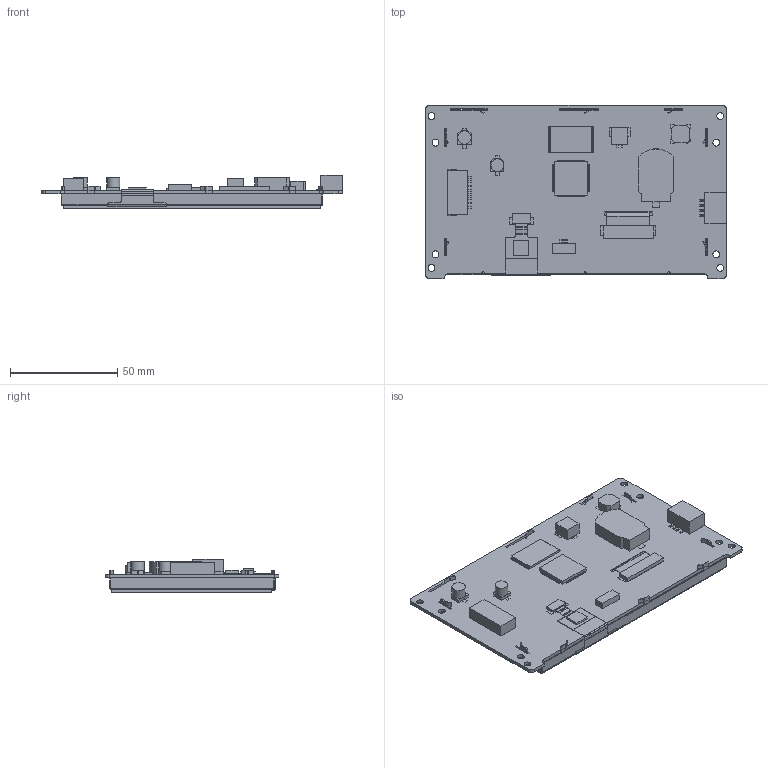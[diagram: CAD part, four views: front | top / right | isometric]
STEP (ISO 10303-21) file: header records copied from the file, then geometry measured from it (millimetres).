
FILE_DESCRIPTION(/* description */ (''),/* implementation_level */ '2;1');
FILE_NAME(/* name */ '3D_SDWa050T67C.stp',/* time_stamp */ '2020-09-07T16:23:20+08:00',/* author */ (''),/* organization */ (''),/* preprocessor_version */ 'ST-DEVELOPER v15',/* originating_system */ 'SIEMENS PLM Software NX 8.5',/* authorisation */ '');
FILE_SCHEMA (('AP203_CONFIGURATION_CONTROLLED_3D_DESIGN_OF_MECHANICAL_PARTS_AND_ASSEMBLIES_MIM_LF { 1 0 10303 403 2 1 2}'));
Products named in the file (1): SDWa050T67
Bounding box: 140 x 80.9 x 15.41 mm (x, y, z)
Volume: 83683 mm3; surface area: 96106.4 mm2
Topology: 330 solids, 330 shells, 2129 faces, 4406 edges, 2937 vertices
Faces by surface type: plane 2059, cylinder 63, extrusion 7
Full cylindrical faces by diameter (mm): 3.2 x8, 5.931 x1, 6.258 x1
Entity records: 70360 total; most frequent: CARTESIAN_POINT 9817, ORIENTED_EDGE 8788, DIRECTION 8712, EDGE_CURVE 4394, VECTOR 4218, LINE 4211, VERTEX_POINT 2937, AXIS2_PLACEMENT_3D 2247
